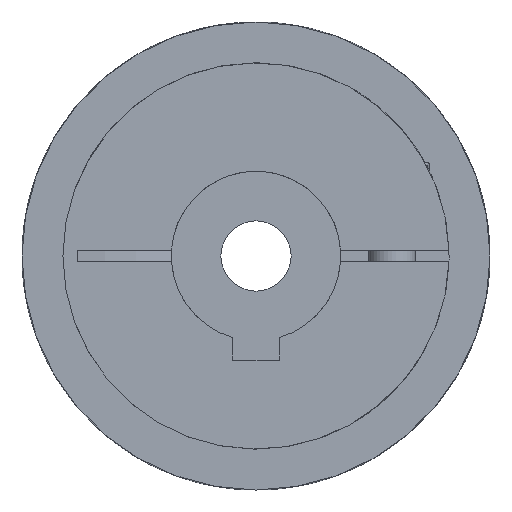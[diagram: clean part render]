
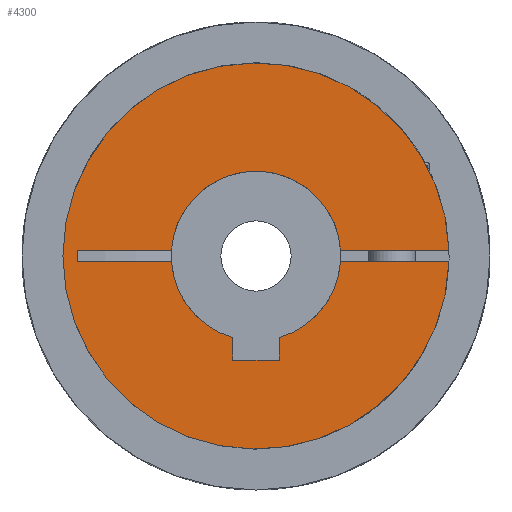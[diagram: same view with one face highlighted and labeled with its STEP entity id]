
A CAD part, left-side view. The second image highlights one B-rep face of the part: STEP entity #4300.
In plain terms, the highlighted planar face has unit normal (-1, 0, 0).
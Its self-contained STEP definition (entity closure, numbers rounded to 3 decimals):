
#90=PLANE('',#4764);
#291=LINE('',#7007,#629);
#294=LINE('',#7013,#632);
#295=LINE('',#7015,#633);
#298=LINE('',#7031,#636);
#299=LINE('',#7035,#637);
#300=LINE('',#7037,#638);
#301=LINE('',#7040,#639);
#302=LINE('',#7043,#640);
#629=VECTOR('',#5583,1.);
#632=VECTOR('',#5588,1.);
#633=VECTOR('',#5591,1.);
#636=VECTOR('',#5610,1.);
#637=VECTOR('',#5615,1.);
#638=VECTOR('',#5618,1.);
#639=VECTOR('',#5621,1.);
#640=VECTOR('',#5624,1.);
#1026=FACE_OUTER_BOUND('',#1272,.T.);
#1272=EDGE_LOOP('',(#3253,#3254,#3255,#3256,#3257,#3258,#3259,#3260,#3261,
#3262,#3263,#3264));
#1678=CIRCLE('',#4709,14.5);
#1681=CIRCLE('',#4712,14.5);
#1682=CIRCLE('',#4713,14.5);
#1709=CIRCLE('',#4765,33.);
#1956=VERTEX_POINT('',#6840);
#1957=VERTEX_POINT('',#6842);
#1962=VERTEX_POINT('',#6852);
#1963=VERTEX_POINT('',#6854);
#1966=VERTEX_POINT('',#6865);
#1967=VERTEX_POINT('',#6867);
#2002=VERTEX_POINT('',#7005);
#2004=VERTEX_POINT('',#7011);
#2009=VERTEX_POINT('',#7029);
#2010=VERTEX_POINT('',#7033);
#2011=VERTEX_POINT('',#7039);
#2012=VERTEX_POINT('',#7041);
#2447=EDGE_CURVE('',#1957,#1956,#1678,.T.);
#2453=EDGE_CURVE('',#1963,#1962,#1681,.T.);
#2457=EDGE_CURVE('',#1967,#1966,#1682,.T.);
#2505=EDGE_CURVE('',#1956,#2002,#291,.T.);
#2508=EDGE_CURVE('',#2002,#2004,#294,.T.);
#2509=EDGE_CURVE('',#2004,#1967,#295,.T.);
#2517=EDGE_CURVE('',#1966,#2009,#298,.F.);
#2519=EDGE_CURVE('',#2009,#2010,#299,.T.);
#2520=EDGE_CURVE('',#2010,#1963,#300,.T.);
#2521=EDGE_CURVE('',#1962,#2011,#301,.F.);
#2522=EDGE_CURVE('',#2011,#2012,#1709,.F.);
#2523=EDGE_CURVE('',#2012,#1957,#302,.F.);
#3253=ORIENTED_EDGE('',*,*,#2447,.T.);
#3254=ORIENTED_EDGE('',*,*,#2505,.T.);
#3255=ORIENTED_EDGE('',*,*,#2508,.T.);
#3256=ORIENTED_EDGE('',*,*,#2509,.T.);
#3257=ORIENTED_EDGE('',*,*,#2457,.T.);
#3258=ORIENTED_EDGE('',*,*,#2517,.T.);
#3259=ORIENTED_EDGE('',*,*,#2519,.T.);
#3260=ORIENTED_EDGE('',*,*,#2520,.T.);
#3261=ORIENTED_EDGE('',*,*,#2453,.T.);
#3262=ORIENTED_EDGE('',*,*,#2521,.T.);
#3263=ORIENTED_EDGE('',*,*,#2522,.T.);
#3264=ORIENTED_EDGE('',*,*,#2523,.T.);
#4300=ADVANCED_FACE('',(#1026),#90,.T.);
#4709=AXIS2_PLACEMENT_3D('',#6843,#5469,#5470);
#4712=AXIS2_PLACEMENT_3D('',#6855,#5478,#5479);
#4713=AXIS2_PLACEMENT_3D('',#6868,#5482,#5483);
#4764=AXIS2_PLACEMENT_3D('',#7038,#5619,#5620);
#4765=AXIS2_PLACEMENT_3D('',#7042,#5622,#5623);
#5469=DIRECTION('center_axis',(1.,0.,0.));
#5470=DIRECTION('ref_axis',(0.,0.,
-1.));
#5478=DIRECTION('center_axis',(1.,0.,0.));
#5479=DIRECTION('ref_axis',(0.,0.,
-1.));
#5482=DIRECTION('center_axis',(1.,0.,0.));
#5483=DIRECTION('ref_axis',(0.,0.,
-1.));
#5583=DIRECTION('',(0.,0.,-1.));
#5588=DIRECTION('',(0.,1.,0.));
#5591=DIRECTION('',(0.,0.,1.));
#5610=DIRECTION('',(0.,-1.,0.));
#5615=DIRECTION('',(0.,0.,1.));
#5618=DIRECTION('',(0.,-1.,0.));
#5619=DIRECTION('center_axis',(-1.,0.,0.));
#5620=DIRECTION('ref_axis',(0.,-1.,0.));
#5621=DIRECTION('',(0.,1.,0.));
#5622=DIRECTION('center_axis',(1.,0.,0.));
#5623=DIRECTION('ref_axis',(0.,1.,0.));
#5624=DIRECTION('',(0.,-1.,0.));
#6840=CARTESIAN_POINT('',(0.,-4.,-13.937));
#6842=CARTESIAN_POINT('',(0.,-14.465,-1.));
#6843=CARTESIAN_POINT('Origin',(0.,0.,0.));
#6852=CARTESIAN_POINT('',(0.,-14.465,1.));
#6854=CARTESIAN_POINT('',(0.,14.465,1.));
#6855=CARTESIAN_POINT('Origin',(0.,0.,0.));
#6865=CARTESIAN_POINT('',(0.,14.465,-1.));
#6867=CARTESIAN_POINT('',(0.,4.,-13.937));
#6868=CARTESIAN_POINT('Origin',(0.,0.,0.));
#7005=CARTESIAN_POINT('',(0.,-4.,-17.8));
#7007=CARTESIAN_POINT('',(0.,-4.,-4.45));
#7011=CARTESIAN_POINT('',(0.,4.,-17.8));
#7013=CARTESIAN_POINT('',(0.,0.,-17.8));
#7015=CARTESIAN_POINT('',(0.,4.,-4.45));
#7029=CARTESIAN_POINT('',(0.,30.502,-1.));
#7031=CARTESIAN_POINT('',(0.,-5.15,-1.));
#7033=CARTESIAN_POINT('',(0.,30.502,1.));
#7035=CARTESIAN_POINT('',(0.,30.502,-1.));
#7037=CARTESIAN_POINT('',(0.,-5.15,1.));
#7038=CARTESIAN_POINT('Origin',(0.,0.,0.));
#7039=CARTESIAN_POINT('',(0.,-32.985,1.));
#7040=CARTESIAN_POINT('',(0.,-5.15,1.));
#7041=CARTESIAN_POINT('',(0.,-32.985,-1.));
#7042=CARTESIAN_POINT('Origin',(0.,0.,0.));
#7043=CARTESIAN_POINT('',(0.,-5.15,-1.));
